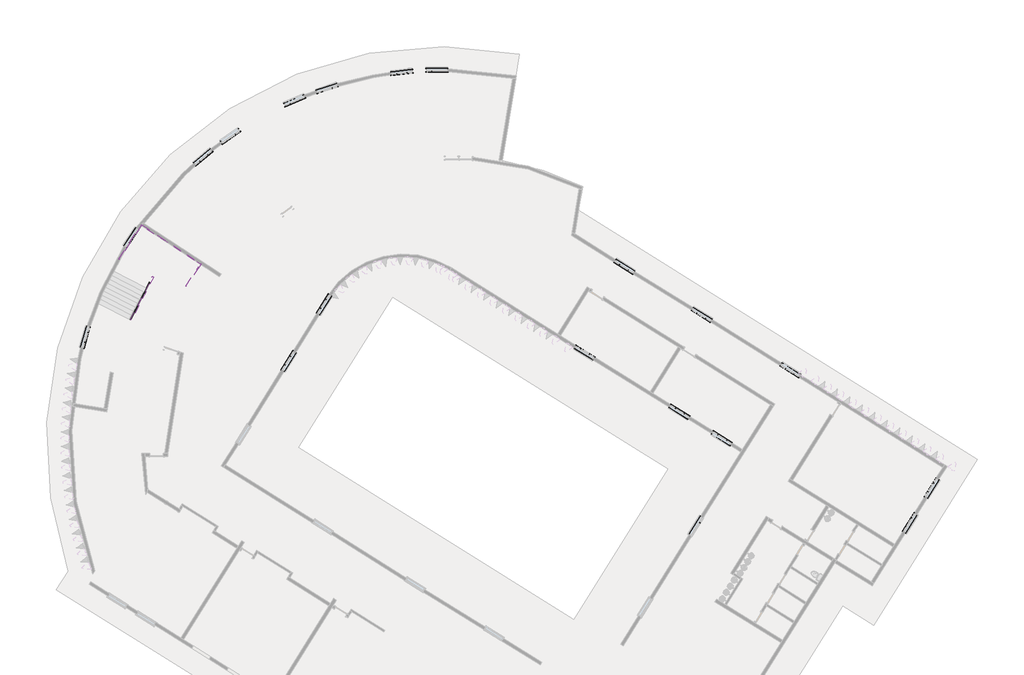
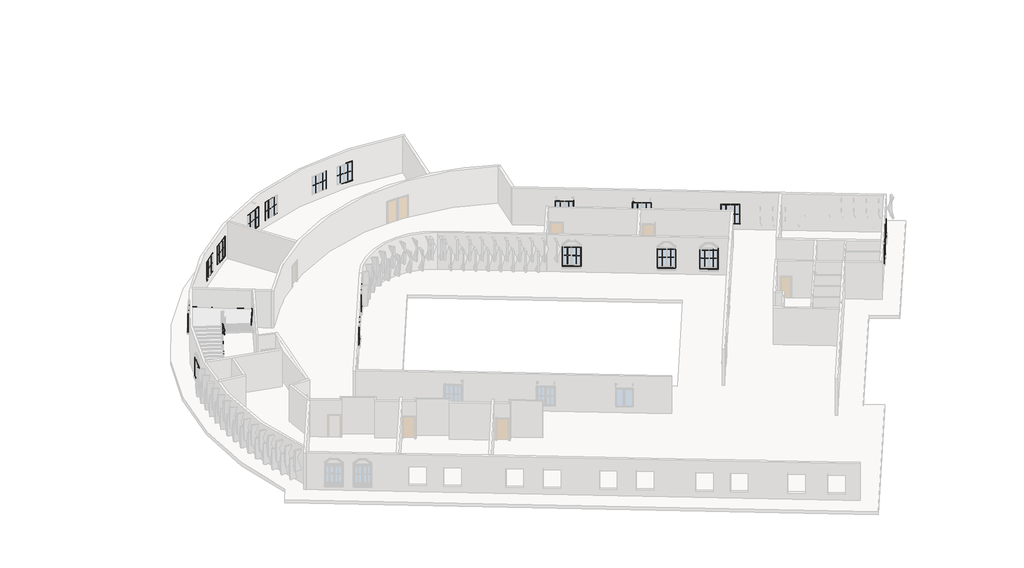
# One storey, part 7 of 7: 74 proxies, 6 members.
"""IFC4 building model written with IfcOpenShell, lengths in millimetres."""

from ifc_helpers import new_model, si_unit, point, frame, frame_2d, origin, place, context, project, spatial, polyline, circle_curve, trimmed, segment, composite_curve, outline, extrude, faceted_brep, transform, mapped, element, save
from components import m_muntin_pattern_2x2_m_muntin_pattern_2x2_d2d4b859, m_muntin_pattern_2x2_m_muntin_pattern_2x2_f3921bb5, m_trim_window_exterior_flat_with_sill_136e302d, m_trim_window_exterior_flat_with_sill_88aaac3a, m_trim_window_interior_flat_picture_frame_c6c50358, m_trim_window_interior_flat_picture_frame_896fcfd1

model = new_model("IFC4")

# Units and contexts
model_context = context("Model", 3, world=origin())
ifc_project = project(units=[si_unit("LENGTHUNIT", "METRE", prefix="MILLI")], contexts=[model_context])

# Site, building, storey
site = spatial("IfcSite", under=ifc_project)
building = spatial("IfcBuilding", under=site)
storey = spatial("IfcBuildingStorey", under=building, Name="\u200fطبقه اول", Elevation=3600.0)

# Proxies
placement = place(None, origin())
m_muntin_pattern_2x2_m_muntin_pattern_2x2_shape = m_muntin_pattern_2x2_m_muntin_pattern_2x2_d2d4b859(model_context)
element("IfcBuildingElementProxy", 1, Name="M_Muntin Pattern_2x2 : M_Muntin Pattern_2x2", ObjectType="M_Muntin Pattern_2x2 : M_Muntin Pattern_2x2", at=placement, inside=storey, context=model_context, shape_type="MappedRepresentation", body=[
    mapped(m_muntin_pattern_2x2_m_muntin_pattern_2x2_shape, transform((47216.1590948, -33860.2747425, 4269.85), x_axis=(0.848048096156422, -0.5299192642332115, 0.0), y_axis=(0.5299192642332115, 0.848048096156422, 0.0), z_axis=(0.0, 0.0, 1.0))),
])
element("IfcBuildingElementProxy", 2, Name="M_Muntin Pattern_2x2 : M_Muntin Pattern_2x2", ObjectType="M_Muntin Pattern_2x2 : M_Muntin Pattern_2x2", at=placement, inside=storey, context=model_context, shape_type="MappedRepresentation", body=[
    mapped(m_muntin_pattern_2x2_m_muntin_pattern_2x2_shape, transform((44332.7955679, -32058.5492441, 4269.85), x_axis=(0.848048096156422, -0.5299192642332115, 0.0), y_axis=(0.5299192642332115, 0.848048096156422, 0.0), z_axis=(0.0, 0.0, 1.0))),
])
element("IfcBuildingElementProxy", 3, Name="M_Muntin Pattern_2x2 : M_Muntin Pattern_2x2", ObjectType="M_Muntin Pattern_2x2 : M_Muntin Pattern_2x2", at=placement, inside=storey, context=model_context, shape_type="MappedRepresentation", body=[
    mapped(m_muntin_pattern_2x2_m_muntin_pattern_2x2_shape, transform((37887.6300371, -28031.162836, 4269.85), x_axis=(0.848048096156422, -0.5299192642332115, 0.0), y_axis=(0.5299192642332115, 0.848048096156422, 0.0), z_axis=(0.0, 0.0, 1.0))),
])
element("IfcBuildingElementProxy", 4, Name="M_Muntin Pattern_2x2 : M_Muntin Pattern_2x2", ObjectType="M_Muntin Pattern_2x2 : M_Muntin Pattern_2x2", at=placement, inside=storey, context=model_context, shape_type="MappedRepresentation", body=[
    mapped(m_muntin_pattern_2x2_m_muntin_pattern_2x2_shape, transform((7597.6576268, -20231.7702749, 4269.85), x_axis=(-0.5493381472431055, -0.8356001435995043, 0.0), y_axis=(0.8356001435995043, -0.5493381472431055, 0.0), z_axis=(0.0, 0.0, 1.0))),
])
element("IfcBuildingElementProxy", 5, Name="M_Muntin Pattern_2x2 : M_Muntin Pattern_2x2", ObjectType="M_Muntin Pattern_2x2 : M_Muntin Pattern_2x2", at=placement, inside=storey, context=model_context, shape_type="MappedRepresentation", body=[
    mapped(m_muntin_pattern_2x2_m_muntin_pattern_2x2_shape, transform((4384.731097, -26924.4898344, 4269.85), x_axis=(-0.2820402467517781, -0.959402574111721, 0.0), y_axis=(0.959402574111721, -0.2820402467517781, 0.0), z_axis=(0.0, 0.0, 1.0))),
])
element("IfcBuildingElementProxy", 6, Name="M_Muntin Pattern_2x2 : M_Muntin Pattern_2x2", ObjectType="M_Muntin Pattern_2x2 : M_Muntin Pattern_2x2", at=placement, inside=storey, context=model_context, shape_type="MappedRepresentation", body=[
    mapped(m_muntin_pattern_2x2_m_muntin_pattern_2x2_shape, transform((12526.8235095, -14842.2158247, 4269.85), x_axis=(-0.7658740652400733, -0.6429906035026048, 0.0), y_axis=(0.6429906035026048, -0.7658740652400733, 0.0), z_axis=(0.0, 0.0, 1.0))),
])
element("IfcBuildingElementProxy", 7, Name="M_Muntin Pattern_2x2 : M_Muntin Pattern_2x2", ObjectType="M_Muntin Pattern_2x2 : M_Muntin Pattern_2x2", at=placement, inside=storey, context=model_context, shape_type="MappedRepresentation", body=[
    mapped(m_muntin_pattern_2x2_m_muntin_pattern_2x2_shape, transform((14401.4429593, -13451.5795941, 4269.85), x_axis=(-0.8220762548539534, -0.5693774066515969, 0.0), y_axis=(0.5693774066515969, -0.8220762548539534, 0.0), z_axis=(0.0, 0.0, 1.0))),
])
element("IfcBuildingElementProxy", 8, Name="M_Muntin Pattern_2x2 : M_Muntin Pattern_2x2", ObjectType="M_Muntin Pattern_2x2 : M_Muntin Pattern_2x2", at=placement, inside=storey, context=model_context, shape_type="MappedRepresentation", body=[
    mapped(m_muntin_pattern_2x2_m_muntin_pattern_2x2_shape, transform((18776.0942325, -11100.0250106, 4269.85), x_axis=(-0.9177745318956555, -0.397101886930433, 0.0), y_axis=(0.397101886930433, -0.9177745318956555, 0.0), z_axis=(0.0, 0.0, 1.0))),
])
element("IfcBuildingElementProxy", 9, Name="M_Muntin Pattern_2x2 : M_Muntin Pattern_2x2", ObjectType="M_Muntin Pattern_2x2 : M_Muntin Pattern_2x2", at=placement, inside=storey, context=model_context, shape_type="MappedRepresentation", body=[
    mapped(m_muntin_pattern_2x2_m_muntin_pattern_2x2_shape, transform((20984.1063746, -10299.2456349, 4269.85), x_axis=(-0.9507568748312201, -0.3099376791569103, 0.0), y_axis=(0.3099376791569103, -0.9507568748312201, 0.0), z_axis=(0.0, 0.0, 1.0))),
])
element("IfcBuildingElementProxy", 10, Name="M_Muntin Pattern_2x2 : M_Muntin Pattern_2x2", ObjectType="M_Muntin Pattern_2x2 : M_Muntin Pattern_2x2", at=placement, inside=storey, context=model_context, shape_type="MappedRepresentation", body=[
    mapped(m_muntin_pattern_2x2_m_muntin_pattern_2x2_shape, transform((26072.3922378, -9277.5664467, 4269.85), x_axis=(-0.9940834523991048, -0.10861901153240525, 0.0), y_axis=(0.10861901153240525, -0.9940834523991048, 0.0), z_axis=(0.0, 0.0, 1.0))),
])
element("IfcBuildingElementProxy", 11, Name="M_Muntin Pattern_2x2 : M_Muntin Pattern_2x2", ObjectType="M_Muntin Pattern_2x2 : M_Muntin Pattern_2x2", at=placement, inside=storey, context=model_context, shape_type="MappedRepresentation", body=[
    mapped(m_muntin_pattern_2x2_m_muntin_pattern_2x2_shape, transform((28451.2614496, -9163.9092221, 4269.85), x_axis=(-0.9998977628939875, -0.014299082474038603, 0.0), y_axis=(0.014299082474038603, -0.9998977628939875, 0.0), z_axis=(0.0, 0.0, 1.0))),
])
element("IfcBuildingElementProxy", 12, Name="M_Muntin Pattern_2x2 : M_Muntin Pattern_2x2", ObjectType="M_Muntin Pattern_2x2 : M_Muntin Pattern_2x2", at=placement, inside=storey, context=model_context, shape_type="MappedRepresentation", body=[
    mapped(m_muntin_pattern_2x2_m_muntin_pattern_2x2_shape, transform((41095.7255387, -22702.4373621, 4269.85), x_axis=(-0.8480480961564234, 0.529919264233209, 0.0), y_axis=(-0.529919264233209, -0.8480480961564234, 0.0), z_axis=(0.0, 0.0, 1.0))),
])
element("IfcBuildingElementProxy", 13, Name="M_Muntin Pattern_2x2 : M_Muntin Pattern_2x2", ObjectType="M_Muntin Pattern_2x2 : M_Muntin Pattern_2x2", at=placement, inside=storey, context=model_context, shape_type="MappedRepresentation", body=[
    mapped(m_muntin_pattern_2x2_m_muntin_pattern_2x2_shape, transform((46353.6237349, -25987.9368003, 4269.85), x_axis=(-0.8480480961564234, 0.529919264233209, 0.0), y_axis=(-0.529919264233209, -0.8480480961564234, 0.0), z_axis=(0.0, 0.0, 1.0))),
])
element("IfcBuildingElementProxy", 14, Name="M_Muntin Pattern_2x2 : M_Muntin Pattern_2x2", ObjectType="M_Muntin Pattern_2x2 : M_Muntin Pattern_2x2", at=placement, inside=storey, context=model_context, shape_type="MappedRepresentation", body=[
    mapped(m_muntin_pattern_2x2_m_muntin_pattern_2x2_shape, transform((52374.7652176, -29750.3635764, 4269.85), x_axis=(-0.8480480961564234, 0.529919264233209, 0.0), y_axis=(-0.529919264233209, -0.8480480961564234, 0.0), z_axis=(0.0, 0.0, 1.0))),
])
element("IfcBuildingElementProxy", 15, Name="M_Muntin Pattern_2x2 : M_Muntin Pattern_2x2", ObjectType="M_Muntin Pattern_2x2 : M_Muntin Pattern_2x2", at=placement, inside=storey, context=model_context, shape_type="MappedRepresentation", body=[
    mapped(m_muntin_pattern_2x2_m_muntin_pattern_2x2_shape, transform((45987.2052247, -39863.2586435, 4269.85), x_axis=(-0.5299192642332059, -0.8480480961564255, 0.0), y_axis=(0.8480480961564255, -0.5299192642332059, 0.0), z_axis=(0.0, 0.0, 1.0))),
])
element("IfcBuildingElementProxy", 16, Name="M_Muntin Pattern_2x2 : M_Muntin Pattern_2x2", ObjectType="M_Muntin Pattern_2x2 : M_Muntin Pattern_2x2", at=placement, inside=storey, context=model_context, shape_type="MappedRepresentation", body=[
    mapped(m_muntin_pattern_2x2_m_muntin_pattern_2x2_shape, transform((17759.3645534, -29127.2501545, 4269.85), x_axis=(0.52991926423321, 0.8480480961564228, 0.0), y_axis=(-0.8480480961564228, 0.52991926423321, 0.0), z_axis=(0.0, 0.0, 1.0))),
])
element("IfcBuildingElementProxy", 17, Name="M_Muntin Pattern_2x2 : M_Muntin Pattern_2x2", ObjectType="M_Muntin Pattern_2x2 : M_Muntin Pattern_2x2", at=placement, inside=storey, context=model_context, shape_type="MappedRepresentation", body=[
    mapped(m_muntin_pattern_2x2_m_muntin_pattern_2x2_shape, transform((59997.0411619, -40123.7473503, 4269.85), x_axis=(0.5299192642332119, 0.8480480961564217, 0.0), y_axis=(-0.8480480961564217, 0.5299192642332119, 0.0), z_axis=(0.0, 0.0, 1.0))),
])
element("IfcBuildingElementProxy", 18, Name="M_Muntin Pattern_2x2 : M_Muntin Pattern_2x2", ObjectType="M_Muntin Pattern_2x2 : M_Muntin Pattern_2x2", at=placement, inside=storey, context=model_context, shape_type="MappedRepresentation", body=[
    mapped(m_muntin_pattern_2x2_m_muntin_pattern_2x2_shape, transform((61480.8151017, -37749.2126811, 4269.85), x_axis=(0.5299192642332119, 0.8480480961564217, 0.0), y_axis=(-0.8480480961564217, 0.5299192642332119, 0.0), z_axis=(0.0, 0.0, 1.0))),
])
element("IfcBuildingElementProxy", 19, Name="M_Muntin Pattern_2x2 : M_Muntin Pattern_2x2", ObjectType="M_Muntin Pattern_2x2 : M_Muntin Pattern_2x2", at=placement, inside=storey, context=model_context, shape_type="MappedRepresentation", body=[
    mapped(m_muntin_pattern_2x2_m_muntin_pattern_2x2_shape, transform((20174.2066406, -25262.6949803, 4269.85), x_axis=(0.52991926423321, 0.8480480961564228, 0.0), y_axis=(-0.8480480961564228, 0.52991926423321, 0.0), z_axis=(0.0, 0.0, 1.0))),
])
m_muntin_pattern_2x2_m_muntin_pattern_2x2_2_shape = m_muntin_pattern_2x2_m_muntin_pattern_2x2_f3921bb5(model_context)
element("IfcBuildingElementProxy", 20, Name="M_Muntin Pattern_2x2 : M_Muntin Pattern_2x2", ObjectType="M_Muntin Pattern_2x2 : M_Muntin Pattern_2x2", at=placement, inside=storey, context=model_context, shape_type="MappedRepresentation", body=[
    mapped(m_muntin_pattern_2x2_m_muntin_pattern_2x2_2_shape, transform((47807.1002094, -34229.5357338, 4269.85), x_axis=(-0.848048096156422, 0.5299192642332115, 0.0), y_axis=(-0.5299192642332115, -0.848048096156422, 0.0), z_axis=(0.0, 0.0, 1.0))),
])
element("IfcBuildingElementProxy", 21, Name="M_Muntin Pattern_2x2 : M_Muntin Pattern_2x2", ObjectType="M_Muntin Pattern_2x2 : M_Muntin Pattern_2x2", at=placement, inside=storey, context=model_context, shape_type="MappedRepresentation", body=[
    mapped(m_muntin_pattern_2x2_m_muntin_pattern_2x2_2_shape, transform((44923.7366825, -32427.8102354, 4269.85), x_axis=(-0.848048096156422, 0.5299192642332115, 0.0), y_axis=(-0.5299192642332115, -0.848048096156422, 0.0), z_axis=(0.0, 0.0, 1.0))),
])
element("IfcBuildingElementProxy", 22, Name="M_Muntin Pattern_2x2 : M_Muntin Pattern_2x2", ObjectType="M_Muntin Pattern_2x2 : M_Muntin Pattern_2x2", at=placement, inside=storey, context=model_context, shape_type="MappedRepresentation", body=[
    mapped(m_muntin_pattern_2x2_m_muntin_pattern_2x2_2_shape, transform((38478.5711517, -28400.4238273, 4269.85), x_axis=(-0.848048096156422, 0.5299192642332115, 0.0), y_axis=(-0.5299192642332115, -0.848048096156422, 0.0), z_axis=(0.0, 0.0, 1.0))),
])
element("IfcBuildingElementProxy", 23, Name="M_Muntin Pattern_2x2 : M_Muntin Pattern_2x2", ObjectType="M_Muntin Pattern_2x2 : M_Muntin Pattern_2x2", at=placement, inside=storey, context=model_context, shape_type="MappedRepresentation", body=[
    mapped(m_muntin_pattern_2x2_m_muntin_pattern_2x2_2_shape, transform((7214.8650724, -20814.037345, 4269.85), x_axis=(0.5493381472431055, 0.8356001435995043, 0.0), y_axis=(-0.8356001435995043, 0.5493381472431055, 0.0), z_axis=(0.0, 0.0, 1.0))),
])
element("IfcBuildingElementProxy", 24, Name="M_Muntin Pattern_2x2 : M_Muntin Pattern_2x2", ObjectType="M_Muntin Pattern_2x2 : M_Muntin Pattern_2x2", at=placement, inside=storey, context=model_context, shape_type="MappedRepresentation", body=[
    mapped(m_muntin_pattern_2x2_m_muntin_pattern_2x2_2_shape, transform((4188.1984021, -27593.0255331, 4269.85), x_axis=(0.2820402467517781, 0.959402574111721, 0.0), y_axis=(-0.959402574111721, 0.2820402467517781, 0.0), z_axis=(0.0, 0.0, 1.0))),
])
element("IfcBuildingElementProxy", 25, Name="M_Muntin Pattern_2x2 : M_Muntin Pattern_2x2", ObjectType="M_Muntin Pattern_2x2 : M_Muntin Pattern_2x2", at=placement, inside=storey, context=model_context, shape_type="MappedRepresentation", body=[
    mapped(m_muntin_pattern_2x2_m_muntin_pattern_2x2_2_shape, transform((11993.143314, -15290.267752, 4269.85), x_axis=(0.7658740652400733, 0.6429906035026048, 0.0), y_axis=(-0.6429906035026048, 0.7658740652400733, 0.0), z_axis=(0.0, 0.0, 1.0))),
])
element("IfcBuildingElementProxy", 26, Name="M_Muntin Pattern_2x2 : M_Muntin Pattern_2x2", ObjectType="M_Muntin Pattern_2x2 : M_Muntin Pattern_2x2", at=placement, inside=storey, context=model_context, shape_type="MappedRepresentation", body=[
    mapped(m_muntin_pattern_2x2_m_muntin_pattern_2x2_2_shape, transform((13828.599673, -13848.3360055, 4269.85), x_axis=(0.8220762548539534, 0.5693774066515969, 0.0), y_axis=(-0.5693774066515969, 0.8220762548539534, 0.0), z_axis=(0.0, 0.0, 1.0))),
])
element("IfcBuildingElementProxy", 27, Name="M_Muntin Pattern_2x2 : M_Muntin Pattern_2x2", ObjectType="M_Muntin Pattern_2x2 : M_Muntin Pattern_2x2", at=placement, inside=storey, context=model_context, shape_type="MappedRepresentation", body=[
    mapped(m_muntin_pattern_2x2_m_muntin_pattern_2x2_2_shape, transform((18136.5659943, -11376.7355329, 4269.85), x_axis=(0.9177745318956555, 0.397101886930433, 0.0), y_axis=(-0.397101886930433, 0.9177745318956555, 0.0), z_axis=(0.0, 0.0, 1.0))),
])
element("IfcBuildingElementProxy", 28, Name="M_Muntin Pattern_2x2 : M_Muntin Pattern_2x2", ObjectType="M_Muntin Pattern_2x2 : M_Muntin Pattern_2x2", at=placement, inside=storey, context=model_context, shape_type="MappedRepresentation", body=[
    mapped(m_muntin_pattern_2x2_m_muntin_pattern_2x2_2_shape, transform((20321.5952153, -10515.2179582, 4269.85), x_axis=(0.9507568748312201, 0.3099376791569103, 0.0), y_axis=(-0.3099376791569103, 0.9507568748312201, 0.0), z_axis=(0.0, 0.0, 1.0))),
])
element("IfcBuildingElementProxy", 29, Name="M_Muntin Pattern_2x2 : M_Muntin Pattern_2x2", ObjectType="M_Muntin Pattern_2x2 : M_Muntin Pattern_2x2", at=placement, inside=storey, context=model_context, shape_type="MappedRepresentation", body=[
    mapped(m_muntin_pattern_2x2_m_muntin_pattern_2x2_2_shape, transform((25379.6900361, -9353.2548894, 4269.85), x_axis=(0.9940834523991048, 0.10861901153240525, 0.0), y_axis=(-0.10861901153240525, 0.9940834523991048, 0.0), z_axis=(0.0, 0.0, 1.0))),
])
element("IfcBuildingElementProxy", 30, Name="M_Muntin Pattern_2x2 : M_Muntin Pattern_2x2", ObjectType="M_Muntin Pattern_2x2 : M_Muntin Pattern_2x2", at=placement, inside=storey, context=model_context, shape_type="MappedRepresentation", body=[
    mapped(m_muntin_pattern_2x2_m_muntin_pattern_2x2_2_shape, transform((27754.5076909, -9173.8731803, 4269.85), x_axis=(0.9998977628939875, 0.014299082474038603, 0.0), y_axis=(-0.014299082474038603, 0.9998977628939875, 0.0), z_axis=(0.0, 0.0, 1.0))),
])
element("IfcBuildingElementProxy", 31, Name="M_Muntin Pattern_2x2 : M_Muntin Pattern_2x2", ObjectType="M_Muntin Pattern_2x2 : M_Muntin Pattern_2x2", at=placement, inside=storey, context=model_context, shape_type="MappedRepresentation", body=[
    mapped(m_muntin_pattern_2x2_m_muntin_pattern_2x2_2_shape, transform((40504.7844241, -22333.1763708, 4269.85), x_axis=(0.8480480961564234, -0.529919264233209, 0.0), y_axis=(0.529919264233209, 0.8480480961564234, 0.0), z_axis=(0.0, 0.0, 1.0))),
])
element("IfcBuildingElementProxy", 32, Name="M_Muntin Pattern_2x2 : M_Muntin Pattern_2x2", ObjectType="M_Muntin Pattern_2x2 : M_Muntin Pattern_2x2", at=placement, inside=storey, context=model_context, shape_type="MappedRepresentation", body=[
    mapped(m_muntin_pattern_2x2_m_muntin_pattern_2x2_2_shape, transform((45762.6826203, -25618.675809, 4269.85), x_axis=(0.8480480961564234, -0.529919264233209, 0.0), y_axis=(0.529919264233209, 0.8480480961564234, 0.0), z_axis=(0.0, 0.0, 1.0))),
])
element("IfcBuildingElementProxy", 33, Name="M_Muntin Pattern_2x2 : M_Muntin Pattern_2x2", ObjectType="M_Muntin Pattern_2x2 : M_Muntin Pattern_2x2", at=placement, inside=storey, context=model_context, shape_type="MappedRepresentation", body=[
    mapped(m_muntin_pattern_2x2_m_muntin_pattern_2x2_2_shape, transform((51783.824103, -29381.1025851, 4269.85), x_axis=(0.8480480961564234, -0.529919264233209, 0.0), y_axis=(0.529919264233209, 0.8480480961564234, 0.0), z_axis=(0.0, 0.0, 1.0))),
])
element("IfcBuildingElementProxy", 34, Name="M_Muntin Pattern_2x2 : M_Muntin Pattern_2x2", ObjectType="M_Muntin Pattern_2x2 : M_Muntin Pattern_2x2", at=placement, inside=storey, context=model_context, shape_type="MappedRepresentation", body=[
    mapped(m_muntin_pattern_2x2_m_muntin_pattern_2x2_2_shape, transform((18128.6255447, -28536.3090399, 4269.85), x_axis=(-0.52991926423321, -0.8480480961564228, 0.0), y_axis=(0.8480480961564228, -0.52991926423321, 0.0), z_axis=(0.0, 0.0, 1.0))),
])
element("IfcBuildingElementProxy", 35, Name="M_Muntin Pattern_2x2 : M_Muntin Pattern_2x2", ObjectType="M_Muntin Pattern_2x2 : M_Muntin Pattern_2x2", at=placement, inside=storey, context=model_context, shape_type="MappedRepresentation", body=[
    mapped(m_muntin_pattern_2x2_m_muntin_pattern_2x2_2_shape, transform((60366.3021532, -39532.8062357, 4269.85), x_axis=(-0.5299192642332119, -0.8480480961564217, 0.0), y_axis=(0.8480480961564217, -0.5299192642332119, 0.0), z_axis=(0.0, 0.0, 1.0))),
])
element("IfcBuildingElementProxy", 36, Name="M_Muntin Pattern_2x2 : M_Muntin Pattern_2x2", ObjectType="M_Muntin Pattern_2x2 : M_Muntin Pattern_2x2", at=placement, inside=storey, context=model_context, shape_type="MappedRepresentation", body=[
    mapped(m_muntin_pattern_2x2_m_muntin_pattern_2x2_2_shape, transform((61850.076093, -37158.2715665, 4269.85), x_axis=(-0.5299192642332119, -0.8480480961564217, 0.0), y_axis=(0.8480480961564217, -0.5299192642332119, 0.0), z_axis=(0.0, 0.0, 1.0))),
])
element("IfcBuildingElementProxy", 37, Name="M_Muntin Pattern_2x2 : M_Muntin Pattern_2x2", ObjectType="M_Muntin Pattern_2x2 : M_Muntin Pattern_2x2", at=placement, inside=storey, context=model_context, shape_type="MappedRepresentation", body=[
    mapped(m_muntin_pattern_2x2_m_muntin_pattern_2x2_2_shape, transform((20543.4676319, -24671.7538657, 4269.85), x_axis=(-0.52991926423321, -0.8480480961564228, 0.0), y_axis=(0.8480480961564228, -0.52991926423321, 0.0), z_axis=(0.0, 0.0, 1.0))),
])
m_trim_window_exterior_flat_with_sill_shape = m_trim_window_exterior_flat_with_sill_136e302d(model_context)
element("IfcBuildingElementProxy", 38, Name="M_Trim-Window-Exterior-Flat : with Sill", ObjectType="M_Trim-Window-Exterior-Flat : with Sill", at=placement, inside=storey, context=model_context, shape_type="MappedRepresentation", body=[
    mapped(m_trim_window_exterior_flat_with_sill_shape, transform((7414.220441, -20528.1362558, 6000.0), x_axis=(0.5493381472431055, 0.8356001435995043, 0.0), y_axis=(0.0, 0.0, 1.0), z_axis=(0.8356001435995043, -0.5493381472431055, 0.0))),
])
element("IfcBuildingElementProxy", 39, Name="M_Trim-Window-Exterior-Flat : with Sill", ObjectType="M_Trim-Window-Exterior-Flat : with Sill", at=placement, inside=storey, context=model_context, shape_type="MappedRepresentation", body=[
    mapped(m_trim_window_exterior_flat_with_sill_shape, transform((4295.6030591, -27261.4441171, 6000.0), x_axis=(0.2820402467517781, 0.959402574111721, 0.0), y_axis=(0.0, 0.0, 1.0), z_axis=(0.959402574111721, -0.2820402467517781, 0.0))),
])
element("IfcBuildingElementProxy", 40, Name="M_Trim-Window-Exterior-Flat : with Sill", ObjectType="M_Trim-Window-Exterior-Flat : with Sill", at=placement, inside=storey, context=model_context, shape_type="MappedRepresentation", body=[
    mapped(m_trim_window_exterior_flat_with_sill_shape, transform((12266.1078973, -15073.5367388, 6000.0), x_axis=(0.7658740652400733, 0.6429906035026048, 0.0), y_axis=(0.0, 0.0, 1.0), z_axis=(0.6429906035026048, -0.7658740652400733, 0.0))),
])
element("IfcBuildingElementProxy", 41, Name="M_Trim-Window-Exterior-Flat : with Sill", ObjectType="M_Trim-Window-Exterior-Flat : with Sill", at=placement, inside=storey, context=model_context, shape_type="MappedRepresentation", body=[
    mapped(m_trim_window_exterior_flat_with_sill_shape, transform((14120.444636, -13657.7880762, 6000.0), x_axis=(0.8220762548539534, 0.5693774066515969, 0.0), y_axis=(0.0, 0.0, 1.0), z_axis=(0.5693774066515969, -0.8220762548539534, 0.0))),
])
element("IfcBuildingElementProxy", 42, Name="M_Trim-Window-Exterior-Flat : with Sill", ObjectType="M_Trim-Window-Exterior-Flat : with Sill", at=placement, inside=storey, context=model_context, shape_type="MappedRepresentation", body=[
    mapped(m_trim_window_exterior_flat_with_sill_shape, transform((18460.1125088, -11247.1220742, 6000.0), x_axis=(0.9177745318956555, 0.397101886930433, 0.0), y_axis=(0.0, 0.0, 1.0), z_axis=(0.397101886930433, -0.9177745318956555, 0.0))),
])
element("IfcBuildingElementProxy", 43, Name="M_Trim-Window-Exterior-Flat : with Sill", ObjectType="M_Trim-Window-Exterior-Flat : with Sill", at=placement, inside=storey, context=model_context, shape_type="MappedRepresentation", body=[
    mapped(m_trim_window_exterior_flat_with_sill_shape, transform((20655.8029514, -10416.2877558, 6000.0), x_axis=(0.9507568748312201, 0.3099376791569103, 0.0), y_axis=(0.0, 0.0, 1.0), z_axis=(0.3099376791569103, -0.9507568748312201, 0.0))),
])
element("IfcBuildingElementProxy", 44, Name="M_Trim-Window-Exterior-Flat : with Sill", ObjectType="M_Trim-Window-Exterior-Flat : with Sill", at=placement, inside=storey, context=model_context, shape_type="MappedRepresentation", body=[
    mapped(m_trim_window_exterior_flat_with_sill_shape, transform((28103.020769, -9178.4152274, 6000.0), x_axis=(0.9998977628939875, 0.014299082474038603, 0.0), y_axis=(0.0, 0.0, 1.0), z_axis=(0.014299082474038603, -0.9998977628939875, 0.0))),
])
element("IfcBuildingElementProxy", 45, Name="M_Trim-Window-Exterior-Flat : with Sill", ObjectType="M_Trim-Window-Exterior-Flat : with Sill", at=placement, inside=storey, context=model_context, shape_type="MappedRepresentation", body=[
    mapped(m_trim_window_exterior_flat_with_sill_shape, transform((40795.2075004, -22525.8845245, 6000.0), x_axis=(0.8480480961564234, -0.529919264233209, 0.0), y_axis=(0.0, 0.0, 1.0), z_axis=(-0.529919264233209, -0.8480480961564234, 0.0))),
])
element("IfcBuildingElementProxy", 46, Name="M_Trim-Window-Exterior-Flat : with Sill", ObjectType="M_Trim-Window-Exterior-Flat : with Sill", at=placement, inside=storey, context=model_context, shape_type="MappedRepresentation", body=[
    mapped(m_trim_window_exterior_flat_with_sill_shape, transform((46053.1056966, -25811.3839628, 6000.0), x_axis=(0.8480480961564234, -0.529919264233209, 0.0), y_axis=(0.0, 0.0, 1.0), z_axis=(-0.529919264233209, -0.8480480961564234, 0.0))),
])
element("IfcBuildingElementProxy", 47, Name="M_Trim-Window-Exterior-Flat : with Sill", ObjectType="M_Trim-Window-Exterior-Flat : with Sill", at=placement, inside=storey, context=model_context, shape_type="MappedRepresentation", body=[
    mapped(m_trim_window_exterior_flat_with_sill_shape, transform((52074.2471793, -29573.8107388, 6000.0), x_axis=(0.8480480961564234, -0.529919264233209, 0.0), y_axis=(0.0, 0.0, 1.0), z_axis=(-0.529919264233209, -0.8480480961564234, 0.0))),
])
element("IfcBuildingElementProxy", 48, Name="M_Trim-Window-Exterior-Flat : with Sill", ObjectType="M_Trim-Window-Exterior-Flat : with Sill", at=placement, inside=storey, context=model_context, shape_type="MappedRepresentation", body=[
    mapped(m_trim_window_exterior_flat_with_sill_shape, transform((60173.5939994, -39823.229312, 6000.0), x_axis=(-0.5299192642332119, -0.8480480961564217, 0.0), y_axis=(0.0, 0.0, 1.0), z_axis=(-0.8480480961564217, 0.5299192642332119, 0.0))),
])
element("IfcBuildingElementProxy", 49, Name="M_Trim-Window-Exterior-Flat : with Sill", ObjectType="M_Trim-Window-Exterior-Flat : with Sill", at=placement, inside=storey, context=model_context, shape_type="MappedRepresentation", body=[
    mapped(m_trim_window_exterior_flat_with_sill_shape, transform((61657.3679393, -37448.6946428, 6000.0), x_axis=(-0.5299192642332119, -0.8480480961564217, 0.0), y_axis=(0.0, 0.0, 1.0), z_axis=(-0.8480480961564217, 0.5299192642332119, 0.0))),
])
element("IfcBuildingElementProxy", 50, Name="M_Trim-Window-Exterior-Flat : with Sill", ObjectType="M_Trim-Window-Exterior-Flat : with Sill", at=placement, inside=storey, context=model_context, shape_type="MappedRepresentation", body=[
    mapped(m_trim_window_exterior_flat_with_sill_shape, transform((20350.7594781, -24962.1769421, 6000.0), x_axis=(-0.52991926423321, -0.8480480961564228, 0.0), y_axis=(0.0, 0.0, 1.0), z_axis=(-0.8480480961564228, 0.52991926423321, 0.0))),
])
m_trim_window_exterior_flat_with_sill_2_shape = m_trim_window_exterior_flat_with_sill_88aaac3a(model_context)
element("IfcBuildingElementProxy", 51, Name="M_Trim-Window-Exterior-Flat : with Sill", ObjectType="M_Trim-Window-Exterior-Flat : with Sill", at=placement, inside=storey, context=model_context, shape_type="MappedRepresentation", body=[
    mapped(m_trim_window_exterior_flat_with_sill_2_shape, transform((47516.6771331, -34036.8275801, 6000.0), x_axis=(0.848048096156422, -0.5299192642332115, 0.0), y_axis=(0.0, 0.0, -1.0), z_axis=(0.5299192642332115, 0.848048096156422, 0.0))),
])
element("IfcBuildingElementProxy", 52, Name="M_Trim-Window-Exterior-Flat : with Sill", ObjectType="M_Trim-Window-Exterior-Flat : with Sill", at=placement, inside=storey, context=model_context, shape_type="MappedRepresentation", body=[
    mapped(m_trim_window_exterior_flat_with_sill_2_shape, transform((44633.3136062, -32235.1020817, 6000.0), x_axis=(0.848048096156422, -0.5299192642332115, 0.0), y_axis=(0.0, 0.0, -1.0), z_axis=(0.5299192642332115, 0.848048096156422, 0.0))),
])
element("IfcBuildingElementProxy", 53, Name="M_Trim-Window-Exterior-Flat : with Sill", ObjectType="M_Trim-Window-Exterior-Flat : with Sill", at=placement, inside=storey, context=model_context, shape_type="MappedRepresentation", body=[
    mapped(m_trim_window_exterior_flat_with_sill_2_shape, transform((38188.1480754, -28207.7156735, 6000.0), x_axis=(0.848048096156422, -0.5299192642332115, 0.0), y_axis=(0.0, 0.0, -1.0), z_axis=(0.5299192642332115, 0.848048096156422, 0.0))),
])
element("IfcBuildingElementProxy", 54, Name="M_Trim-Window-Exterior-Flat : with Sill", ObjectType="M_Trim-Window-Exterior-Flat : with Sill", at=placement, inside=storey, context=model_context, shape_type="MappedRepresentation", body=[
    mapped(m_trim_window_exterior_flat_with_sill_2_shape, transform((25727.075733, -9324.8793129, 6000.0), x_axis=(-0.9940834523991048, -0.10861901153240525, 0.0), y_axis=(0.0, 0.0, -1.0), z_axis=(0.10861901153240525, -0.9940834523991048, 0.0))),
])
element("IfcBuildingElementProxy", 55, Name="M_Trim-Window-Exterior-Flat : with Sill", ObjectType="M_Trim-Window-Exterior-Flat : with Sill", at=placement, inside=storey, context=model_context, shape_type="MappedRepresentation", body=[
    mapped(m_trim_window_exterior_flat_with_sill_2_shape, transform((17935.917391, -28826.7321162, 6000.0), x_axis=(0.52991926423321, 0.8480480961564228, 0.0), y_axis=(0.0, 0.0, -1.0), z_axis=(-0.8480480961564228, 0.52991926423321, 0.0))),
])
m_trim_window_interior_flat_picture_frame_shape = m_trim_window_interior_flat_picture_frame_c6c50358(model_context)
element("IfcBuildingElementProxy", 56, Name="M_Trim-Window-Interior-Flat : Picture Frame", ObjectType="M_Trim-Window-Interior-Flat : Picture Frame", at=placement, inside=storey, context=model_context, shape_type="MappedRepresentation", body=[
    mapped(m_trim_window_interior_flat_picture_frame_shape, transform((7247.1004122, -20418.2686263, 6000.0), x_axis=(-0.5493381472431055, -0.8356001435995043, 0.0), y_axis=(0.0, 0.0, 1.0), z_axis=(-0.8356001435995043, 0.5493381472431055, 0.0))),
])
element("IfcBuildingElementProxy", 57, Name="M_Trim-Window-Interior-Flat : Picture Frame", ObjectType="M_Trim-Window-Interior-Flat : Picture Frame", at=placement, inside=storey, context=model_context, shape_type="MappedRepresentation", body=[
    mapped(m_trim_window_interior_flat_picture_frame_shape, transform((4103.7225442, -27205.0360677, 6000.0), x_axis=(-0.2820402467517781, -0.959402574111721, 0.0), y_axis=(0.0, 0.0, 1.0), z_axis=(-0.959402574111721, 0.2820402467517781, 0.0))),
])
element("IfcBuildingElementProxy", 58, Name="M_Trim-Window-Interior-Flat : Picture Frame", ObjectType="M_Trim-Window-Interior-Flat : Picture Frame", at=placement, inside=storey, context=model_context, shape_type="MappedRepresentation", body=[
    mapped(m_trim_window_interior_flat_picture_frame_shape, transform((12137.5097766, -14920.3619258, 6000.0), x_axis=(-0.7658740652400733, -0.6429906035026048, 0.0), y_axis=(0.0, 0.0, 1.0), z_axis=(-0.6429906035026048, 0.7658740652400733, 0.0))),
])
element("IfcBuildingElementProxy", 59, Name="M_Trim-Window-Interior-Flat : Picture Frame", ObjectType="M_Trim-Window-Interior-Flat : Picture Frame", at=placement, inside=storey, context=model_context, shape_type="MappedRepresentation", body=[
    mapped(m_trim_window_interior_flat_picture_frame_shape, transform((14006.5691546, -13493.3728252, 6000.0), x_axis=(-0.8220762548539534, -0.5693774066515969, 0.0), y_axis=(0.0, 0.0, 1.0), z_axis=(-0.5693774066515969, 0.8220762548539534, 0.0))),
])
element("IfcBuildingElementProxy", 60, Name="M_Trim-Window-Interior-Flat : Picture Frame", ObjectType="M_Trim-Window-Interior-Flat : Picture Frame", at=placement, inside=storey, context=model_context, shape_type="MappedRepresentation", body=[
    mapped(m_trim_window_interior_flat_picture_frame_shape, transform((18380.6921314, -11063.5671678, 6000.0), x_axis=(-0.9177745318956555, -0.397101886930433, 0.0), y_axis=(0.0, 0.0, 1.0), z_axis=(-0.397101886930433, 0.9177745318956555, 0.0))),
])
element("IfcBuildingElementProxy", 61, Name="M_Trim-Window-Interior-Flat : Picture Frame", ObjectType="M_Trim-Window-Interior-Flat : Picture Frame", at=placement, inside=storey, context=model_context, shape_type="MappedRepresentation", body=[
    mapped(m_trim_window_interior_flat_picture_frame_shape, transform((20593.8154156, -10226.1363808, 6000.0), x_axis=(-0.9507568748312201, -0.3099376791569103, 0.0), y_axis=(0.0, 0.0, 1.0), z_axis=(-0.3099376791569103, 0.9507568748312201, 0.0))),
])
element("IfcBuildingElementProxy", 62, Name="M_Trim-Window-Interior-Flat : Picture Frame", ObjectType="M_Trim-Window-Interior-Flat : Picture Frame", at=placement, inside=storey, context=model_context, shape_type="MappedRepresentation", body=[
    mapped(m_trim_window_interior_flat_picture_frame_shape, transform((28100.1609525, -8978.4356748, 6000.0), x_axis=(-0.9998977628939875, -0.014299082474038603, 0.0), y_axis=(0.0, 0.0, 1.0), z_axis=(-0.014299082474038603, 0.9998977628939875, 0.0))),
])
element("IfcBuildingElementProxy", 63, Name="M_Trim-Window-Interior-Flat : Picture Frame", ObjectType="M_Trim-Window-Interior-Flat : Picture Frame", at=placement, inside=storey, context=model_context, shape_type="MappedRepresentation", body=[
    mapped(m_trim_window_interior_flat_picture_frame_shape, transform((40901.1913533, -22356.2749053, 6000.0), x_axis=(-0.8480480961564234, 0.529919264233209, 0.0), y_axis=(0.0, 0.0, 1.0), z_axis=(0.529919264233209, 0.8480480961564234, 0.0))),
])
element("IfcBuildingElementProxy", 64, Name="M_Trim-Window-Interior-Flat : Picture Frame", ObjectType="M_Trim-Window-Interior-Flat : Picture Frame", at=placement, inside=storey, context=model_context, shape_type="MappedRepresentation", body=[
    mapped(m_trim_window_interior_flat_picture_frame_shape, transform((46159.0895494, -25641.7743436, 6000.0), x_axis=(-0.8480480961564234, 0.529919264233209, 0.0), y_axis=(0.0, 0.0, 1.0), z_axis=(0.529919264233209, 0.8480480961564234, 0.0))),
])
element("IfcBuildingElementProxy", 65, Name="M_Trim-Window-Interior-Flat : Picture Frame", ObjectType="M_Trim-Window-Interior-Flat : Picture Frame", at=placement, inside=storey, context=model_context, shape_type="MappedRepresentation", body=[
    mapped(m_trim_window_interior_flat_picture_frame_shape, transform((52180.2310321, -29404.2011196, 6000.0), x_axis=(-0.8480480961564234, 0.529919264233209, 0.0), y_axis=(0.0, 0.0, 1.0), z_axis=(0.529919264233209, 0.8480480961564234, 0.0))),
])
element("IfcBuildingElementProxy", 66, Name="M_Trim-Window-Interior-Flat : Picture Frame", ObjectType="M_Trim-Window-Interior-Flat : Picture Frame", at=placement, inside=storey, context=model_context, shape_type="MappedRepresentation", body=[
    mapped(m_trim_window_interior_flat_picture_frame_shape, transform((45641.0427679, -40057.792829, 6000.0), x_axis=(-0.5299192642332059, -0.8480480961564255, 0.0), y_axis=(0.0, 0.0, 1.0), z_axis=(-0.8480480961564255, 0.5299192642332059, 0.0))),
])
element("IfcBuildingElementProxy", 67, Name="M_Trim-Window-Interior-Flat : Picture Frame", ObjectType="M_Trim-Window-Interior-Flat : Picture Frame", at=placement, inside=storey, context=model_context, shape_type="MappedRepresentation", body=[
    mapped(m_trim_window_interior_flat_picture_frame_shape, transform((60343.2036186, -39929.2131648, 6000.0), x_axis=(0.5299192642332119, 0.8480480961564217, 0.0), y_axis=(0.0, 0.0, 1.0), z_axis=(0.8480480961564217, -0.5299192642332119, 0.0))),
])
element("IfcBuildingElementProxy", 68, Name="M_Trim-Window-Interior-Flat : Picture Frame", ObjectType="M_Trim-Window-Interior-Flat : Picture Frame", at=placement, inside=storey, context=model_context, shape_type="MappedRepresentation", body=[
    mapped(m_trim_window_interior_flat_picture_frame_shape, transform((61826.9775585, -37554.6784956, 6000.0), x_axis=(0.5299192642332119, 0.8480480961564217, 0.0), y_axis=(0.0, 0.0, 1.0), z_axis=(0.8480480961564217, -0.5299192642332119, 0.0))),
])
element("IfcBuildingElementProxy", 69, Name="M_Trim-Window-Interior-Flat : Picture Frame", ObjectType="M_Trim-Window-Interior-Flat : Picture Frame", at=placement, inside=storey, context=model_context, shape_type="MappedRepresentation", body=[
    mapped(m_trim_window_interior_flat_picture_frame_shape, transform((20520.3690973, -25068.1607949, 6000.0), x_axis=(0.52991926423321, 0.8480480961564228, 0.0), y_axis=(0.0, 0.0, 1.0), z_axis=(0.8480480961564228, -0.52991926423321, 0.0))),
])
m_trim_window_interior_flat_picture_frame_2_shape = m_trim_window_interior_flat_picture_frame_896fcfd1(model_context)
element("IfcBuildingElementProxy", 70, Name="M_Trim-Window-Interior-Flat : Picture Frame", ObjectType="M_Trim-Window-Interior-Flat : Picture Frame", at=placement, inside=storey, context=model_context, shape_type="MappedRepresentation", body=[
    mapped(m_trim_window_interior_flat_picture_frame_2_shape, transform((47410.6932803, -34206.4371993, 6000.0), x_axis=(-0.848048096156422, 0.5299192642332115, 0.0), y_axis=(0.0, 0.0, -1.0), z_axis=(-0.5299192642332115, -0.848048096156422, 0.0))),
])
element("IfcBuildingElementProxy", 71, Name="M_Trim-Window-Interior-Flat : Picture Frame", ObjectType="M_Trim-Window-Interior-Flat : Picture Frame", at=placement, inside=storey, context=model_context, shape_type="MappedRepresentation", body=[
    mapped(m_trim_window_interior_flat_picture_frame_2_shape, transform((44527.3297533, -32404.7117009, 6000.0), x_axis=(-0.848048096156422, 0.5299192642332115, 0.0), y_axis=(0.0, 0.0, -1.0), z_axis=(-0.5299192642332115, -0.848048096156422, 0.0))),
])
element("IfcBuildingElementProxy", 72, Name="M_Trim-Window-Interior-Flat : Picture Frame", ObjectType="M_Trim-Window-Interior-Flat : Picture Frame", at=placement, inside=storey, context=model_context, shape_type="MappedRepresentation", body=[
    mapped(m_trim_window_interior_flat_picture_frame_2_shape, transform((38082.1642226, -28377.3252927, 6000.0), x_axis=(-0.848048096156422, 0.5299192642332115, 0.0), y_axis=(0.0, 0.0, -1.0), z_axis=(-0.5299192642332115, -0.848048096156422, 0.0))),
])
element("IfcBuildingElementProxy", 73, Name="M_Trim-Window-Interior-Flat : Picture Frame", ObjectType="M_Trim-Window-Interior-Flat : Picture Frame", at=placement, inside=storey, context=model_context, shape_type="MappedRepresentation", body=[
    mapped(m_trim_window_interior_flat_picture_frame_2_shape, transform((25705.3519307, -9126.0626225, 6000.0), x_axis=(0.9940834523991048, 0.10861901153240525, 0.0), y_axis=(0.0, 0.0, -1.0), z_axis=(-0.10861901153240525, 0.9940834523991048, 0.0))),
])
element("IfcBuildingElementProxy", 74, Name="M_Trim-Window-Interior-Flat : Picture Frame", ObjectType="M_Trim-Window-Interior-Flat : Picture Frame", at=placement, inside=storey, context=model_context, shape_type="MappedRepresentation", body=[
    mapped(m_trim_window_interior_flat_picture_frame_2_shape, transform((18105.5270102, -28932.7159691, 6000.0), x_axis=(-0.52991926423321, -0.8480480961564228, 0.0), y_axis=(0.0, 0.0, -1.0), z_axis=(0.8480480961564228, -0.52991926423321, 0.0))),
])

# Members
element("IfcMember", 75, ObjectType="Stringer - 50mm Width", at=placement, inside=storey, context=model_context, shape_type="SweptSolid", body=[
    extrude(outline(composite_curve([segment(trimmed(circle_curve(frame_2d((28463.2186017, -34366.1157481)), 25200.0), [point((8007.113091, -19649.1953048))], [point((6525.4431115, -21965.5509809))], True, "CARTESIAN"), True, "CONTINUOUS"), segment(polyline([(6525.4431115, -21965.5509809), (6481.9157792, -21940.9466858)]), True, "CONTINUOUS"), segment(trimmed(circle_curve(frame_2d((28463.2186017, -34366.1157481)), 25250.0), [point((6481.9157792, -21940.9466858))], [point((7965.2325341, -19621.7925296))], False, "CARTESIAN"), True, "CONTINUOUS"), segment(polyline([(7965.2325341, -19621.7925296), (8007.113091, -19649.1953048)]), True, "CONTINUOUS")], self_intersect=False)), frame((0.0, 0.0, 5000.0), z_axis=(0.0, 0.0, 1.0), x_axis=(1.0, 0.0, 0.0)), (0.0, 0.0, 1.0), 400.0),
])
element("IfcMember", 76, ObjectType="Stringer - 50mm Width", at=placement, inside=storey, context=model_context, shape_type="SweptSolid", body=[
    extrude(outline(composite_curve([segment(trimmed(circle_curve(frame_2d((28419.6912693, -34341.5114529)), 25200.0), [point((7965.4819455, -19621.9557214))], [point((7994.7578384, -19581.3592063))], False, "CARTESIAN"), True, "CONTINUOUS"), segment(polyline([(7994.7578384, -19581.3592063), (12039.8088932, -22228.0676747)]), True, "CONTINUOUS"), segment(trimmed(circle_curve(frame_2d((29284.4488792, -34638.3554793)), 21246.0078989), [point((12039.8088932, -22228.0676747))], [point((12010.6232883, -22268.7232659))], True, "CARTESIAN"), True, "CONTINUOUS"), segment(polyline([(12010.6232883, -22268.7232659), (7965.4819455, -19621.9557214)]), True, "CONTINUOUS")], self_intersect=False)), frame((0.0, 0.0, 5050.0), z_axis=(0.0, 0.0, 1.0), x_axis=(1.0, 0.0, 0.0)), (0.0, 0.0, 1.0), 400.0),
])
element("IfcMember", 77, ObjectType="Stringer - 50mm Width", at=placement, inside=storey, context=model_context, shape_type="SweptSolid", body=[
    extrude(outline(composite_curve([segment(trimmed(circle_curve(frame_2d((29284.4488792, -34638.3554793)), 21246.0078989), [point((11036.2547588, -23757.350793))], [point((12039.8088932, -22228.0676747))], False, "CARTESIAN"), True, "CONTINUOUS"), segment(polyline([(12039.8088932, -22228.0676747), (12081.6899002, -22255.4707443)]), True, "CONTINUOUS"), segment(trimmed(circle_curve(frame_2d((29284.4488792, -34638.3554793)), 21196.0078989), [point((12081.6899002, -22255.4707443))], [point((11079.1997539, -23782.9579676))], True, "CARTESIAN"), True, "CONTINUOUS"), segment(polyline([(11079.1997539, -23782.9579676), (11036.2547588, -23757.350793)]), True, "CONTINUOUS")], self_intersect=False)), frame((0.0, 0.0, 5000.0), z_axis=(0.0, 0.0, 1.0), x_axis=(1.0, 0.0, 0.0)), (0.0, 0.0, 1.0), 400.0),
])
element("IfcMember", 78, ObjectType="Stringer - 50mm Width", at=placement, inside=storey, context=model_context, shape_type="Brep", body=[
    faceted_brep([(7282.03561, -26052.1421789, 3600.0), (7237.6463466, -26029.1292848, 3600.0), (7443.8061337, -25631.4704308, 3600.0), (7488.1953971, -25654.4833249, 3600.0), (7282.03561, -26052.1421789, 3823.2568604), (7237.6463466, -26029.1292848, 3823.2568604), (8778.1099044, -23166.3844965, 5448.4598543), (8733.5337757, -23143.7320443, 5448.2568604), (8733.5337757, -23143.7320443, 5001.0462134), (8778.1099044, -23166.3844965, 5001.2492073)], [[[0, 1, 2, 3]], [[4, 5, 1, 0]], [[5, 4, 6, 7]], [[1, 5, 7, 8, 2]], [[4, 0, 3, 9, 6]], [[2, 8, 9, 3]], [[6, 9, 8, 7]]]),
])
element("IfcMember", 79, ObjectType="Stringer - 50mm Width", at=placement, inside=storey, context=model_context, shape_type="SweptSolid", body=[
    extrude(outline(polyline([(8733.5337757, -23143.7320443), (8756.5474285, -23099.3413175), (8801.1235572, -23121.9937697), (8778.1099044, -23166.3844965), (8733.5337757, -23143.7320443)])), frame((0.0, 0.0, 5050.0), z_axis=(0.0, 0.0, 1.0), x_axis=(1.0, 0.0, 0.0)), (0.0, 0.0, 1.0), 400.0),
])
element("IfcMember", 80, ObjectType="Stringer - 50mm Width", at=placement, inside=storey, context=model_context, shape_type="Brep", body=[
    faceted_brep([(7282.4093405, -26051.4212951, 7273.2568604), (7282.4093405, -26051.4212951, 6826.0462134), (7326.7986039, -26074.4341892, 6826.0462134), (7326.7986039, -26074.4341892, 7273.2568604), (8845.6996858, -23144.6462219, 5623.2568604), (8801.1235572, -23121.9937697, 5623.4598543), (8845.6996858, -23144.6462219, 5176.0462134), (8801.1235572, -23121.9937697, 5176.2492073)], [[[0, 1, 2, 3]], [[4, 5, 0, 3]], [[6, 4, 3, 2]], [[7, 6, 2, 1]], [[5, 7, 1, 0]], [[5, 4, 6, 7]]]),
])

save(model, "model.ifc")
